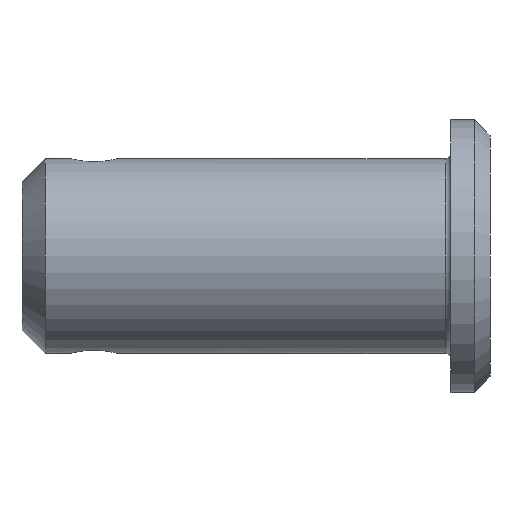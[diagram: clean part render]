
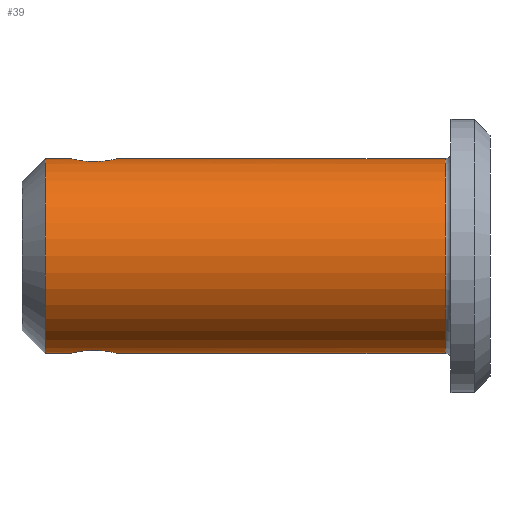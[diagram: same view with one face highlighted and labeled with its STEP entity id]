
A CAD part, front view. The second image highlights one B-rep face of the part: STEP entity #39.
In plain terms, the highlighted cylindrical face has radius 5 mm (diameter 10 mm), a partial arc.
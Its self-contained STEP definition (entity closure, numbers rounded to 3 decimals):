
#1 = ORIENTED_EDGE ( 'NONE', *, *, #133, .T. ) ;
#5 = ORIENTED_EDGE ( 'NONE', *, *, #29, .T. ) ;
#13 = ORIENTED_EDGE ( 'NONE', *, *, #101, .T. ) ;
#14 = ORIENTED_EDGE ( 'NONE', *, *, #71, .F. ) ;
#16 = ORIENTED_EDGE ( 'NONE', *, *, #17, .F. ) ;
#17 = EDGE_CURVE ( 'NONE', #70, #72, #195, .T. ) ;
#29 = EDGE_CURVE ( 'NONE', #30, #109, #174, .T. ) ;
#30 = VERTEX_POINT ( 'NONE', #186 ) ;
#39 = ADVANCED_FACE ( 'NONE', ( #193 ), #173, .T. ) ;
#40 = ORIENTED_EDGE ( 'NONE', *, *, #79, .F. ) ;
#61 = EDGE_CURVE ( 'NONE', #103, #30, #533, .T. ) ;
#70 = VERTEX_POINT ( 'NONE', #558 ) ;
#71 = EDGE_CURVE ( 'NONE', #99, #70, #528, .T. ) ;
#72 = VERTEX_POINT ( 'NONE', #513 ) ;
#79 = EDGE_CURVE ( 'NONE', #104, #93, #277, .T. ) ;
#93 = VERTEX_POINT ( 'NONE', #255 ) ;
#98 = EDGE_CURVE ( 'NONE', #104, #103, #251, .T. ) ;
#99 = VERTEX_POINT ( 'NONE', #378 ) ;
#101 = EDGE_CURVE ( 'NONE', #99, #93, #231, .T. ) ;
#103 = VERTEX_POINT ( 'NONE', #240 ) ;
#104 = VERTEX_POINT ( 'NONE', #233 ) ;
#109 = VERTEX_POINT ( 'NONE', #252 ) ;
#133 = EDGE_CURVE ( 'NONE', #109, #72, #312, .T. ) ;
#142 = ORIENTED_EDGE ( 'NONE', *, *, #61, .T. ) ;
#143 = EDGE_LOOP ( 'NONE', ( #40, #147, #142, #5, #1, #16, #14, #13 ) ) ;
#147 = ORIENTED_EDGE ( 'NONE', *, *, #98, .T. ) ;
#173 = CYLINDRICAL_SURFACE ( 'NONE', #185, 5. ) ;
#174 = B_SPLINE_CURVE_WITH_KNOTS ( 'NONE', 3,
 ( #214, #213, #212, #211, #210, #209, #208, #207, #206, #205, #204, #203, #202, #201, #200, #199, #198, #197, #226, #225, #224, #223 ),
 .UNSPECIFIED., .F., .F.,
 ( 4, 2, 2, 2, 2, 2, 2, 2, 2, 2, 4 ),
 ( 0., 0., 0.001, 0.001, 0.002, 0.002, 0.002, 0.003, 0.003, 0.003, 0.004 ),
 .UNSPECIFIED. ) ;
#175 = DIRECTION ( 'NONE',  ( 0., 0., 1. ) ) ;
#176 = DIRECTION ( 'NONE',  ( -1., 0., 0. ) ) ;
#178 = CARTESIAN_POINT ( 'NONE',  ( 0., 0., 0. ) ) ;
#185 = AXIS2_PLACEMENT_3D ( 'NONE', #178, #176, #175 ) ;
#186 = CARTESIAN_POINT ( 'NONE',  ( -17.05, 0., 5. ) ) ;
#187 = DIRECTION ( 'NONE',  ( 0., 0., 1. ) ) ;
#188 = DIRECTION ( 'NONE',  ( -1., 0., 0. ) ) ;
#189 = CARTESIAN_POINT ( 'NONE',  ( -20.8, 0., 0. ) ) ;
#190 = AXIS2_PLACEMENT_3D ( 'NONE', #189, #188, #187 ) ;
#193 = FACE_OUTER_BOUND ( 'NONE', #143, .T. ) ;
#195 = CIRCLE ( 'NONE', #190, 5. ) ;
#197 = CARTESIAN_POINT ( 'NONE',  ( -19.384, -0.628, 4.961 ) ) ;
#198 = CARTESIAN_POINT ( 'NONE',  ( -19.293, -0.763, 4.942 ) ) ;
#199 = CARTESIAN_POINT ( 'NONE',  ( -19.242, -0.826, 4.932 ) ) ;
#200 = CARTESIAN_POINT ( 'NONE',  ( -19.068, -1., 4.9 ) ) ;
#201 = CARTESIAN_POINT ( 'NONE',  ( -18.931, -1.092, 4.88 ) ) ;
#202 = CARTESIAN_POINT ( 'NONE',  ( -18.703, -1.186, 4.857 ) ) ;
#203 = CARTESIAN_POINT ( 'NONE',  ( -18.625, -1.21, 4.851 ) ) ;
#204 = CARTESIAN_POINT ( 'NONE',  ( -18.465, -1.242, 4.843 ) ) ;
#205 = CARTESIAN_POINT ( 'NONE',  ( -18.381, -1.25, 4.841 ) ) ;
#206 = CARTESIAN_POINT ( 'NONE',  ( -18.136, -1.25, 4.841 ) ) ;
#207 = CARTESIAN_POINT ( 'NONE',  ( -17.971, -1.217, 4.85 ) ) ;
#208 = CARTESIAN_POINT ( 'NONE',  ( -17.67, -1.092, 4.88 ) ) ;
#209 = CARTESIAN_POINT ( 'NONE',  ( -17.531, -0.999, 4.901 ) ) ;
#210 = CARTESIAN_POINT ( 'NONE',  ( -17.302, -0.769, 4.942 ) ) ;
#211 = CARTESIAN_POINT ( 'NONE',  ( -17.209, -0.631, 4.962 ) ) ;
#212 = CARTESIAN_POINT ( 'NONE',  ( -17.083, -0.329, 4.992 ) ) ;
#213 = CARTESIAN_POINT ( 'NONE',  ( -17.05, -0.166, 5. ) ) ;
#214 = CARTESIAN_POINT ( 'NONE',  ( -17.05, 0., 5. ) ) ;
#223 = CARTESIAN_POINT ( 'NONE',  ( -19.55, 0., 5. ) ) ;
#224 = CARTESIAN_POINT ( 'NONE',  ( -19.55, -0.164, 5. ) ) ;
#225 = CARTESIAN_POINT ( 'NONE',  ( -19.517, -0.328, 4.992 ) ) ;
#226 = CARTESIAN_POINT ( 'NONE',  ( -19.423, -0.555, 4.97 ) ) ;
#231 = B_SPLINE_CURVE_WITH_KNOTS ( 'NONE', 3,
 ( #238, #237, #236, #235, #234, #371, #370, #369, #368, #367, #366, #365, #364, #363, #362, #361, #360, #359, #358, #357 ),
 .UNSPECIFIED., .F., .F.,
 ( 4, 2, 2, 2, 2, 2, 2, 2, 2, 4 ),
 ( 0.004, 0.004, 0.005, 0.005, 0.006, 0.006, 0.006, 0.007, 0.007, 0.008 ),
 .UNSPECIFIED. ) ;
#233 = CARTESIAN_POINT ( 'NONE',  ( -0.3, 0., -5. ) ) ;
#234 = CARTESIAN_POINT ( 'NONE',  ( -19.299, -0.768, -4.942 ) ) ;
#235 = CARTESIAN_POINT ( 'NONE',  ( -19.392, -0.63, -4.962 ) ) ;
#236 = CARTESIAN_POINT ( 'NONE',  ( -19.517, -0.329, -4.991 ) ) ;
#237 = CARTESIAN_POINT ( 'NONE',  ( -19.55, -0.164, -5. ) ) ;
#238 = CARTESIAN_POINT ( 'NONE',  ( -19.55, 0., -5. ) ) ;
#240 = CARTESIAN_POINT ( 'NONE',  ( -0.3, 0., 5. ) ) ;
#246 = DIRECTION ( 'NONE',  ( 0., 0., -1. ) ) ;
#247 = DIRECTION ( 'NONE',  ( -1., 0., 0. ) ) ;
#248 = CARTESIAN_POINT ( 'NONE',  ( -0.3, 0., 0. ) ) ;
#251 = CIRCLE ( 'NONE', #391, 5. ) ;
#252 = CARTESIAN_POINT ( 'NONE',  ( -19.55, 0., 5. ) ) ;
#255 = CARTESIAN_POINT ( 'NONE',  ( -17.05, 0., -5. ) ) ;
#276 = CARTESIAN_POINT ( 'NONE',  ( 0., 0., -5. ) ) ;
#277 = LINE ( 'NONE', #276, #375 ) ;
#312 = LINE ( 'NONE', #429, #428 ) ;
#357 = CARTESIAN_POINT ( 'NONE',  ( -17.05, 0., -5. ) ) ;
#358 = CARTESIAN_POINT ( 'NONE',  ( -17.05, -0.166, -5. ) ) ;
#359 = CARTESIAN_POINT ( 'NONE',  ( -17.083, -0.33, -4.991 ) ) ;
#360 = CARTESIAN_POINT ( 'NONE',  ( -17.209, -0.631, -4.962 ) ) ;
#361 = CARTESIAN_POINT ( 'NONE',  ( -17.302, -0.77, -4.942 ) ) ;
#362 = CARTESIAN_POINT ( 'NONE',  ( -17.531, -0.999, -4.901 ) ) ;
#363 = CARTESIAN_POINT ( 'NONE',  ( -17.67, -1.092, -4.88 ) ) ;
#364 = CARTESIAN_POINT ( 'NONE',  ( -17.896, -1.186, -4.857 ) ) ;
#365 = CARTESIAN_POINT ( 'NONE',  ( -17.976, -1.21, -4.851 ) ) ;
#366 = CARTESIAN_POINT ( 'NONE',  ( -18.137, -1.242, -4.843 ) ) ;
#367 = CARTESIAN_POINT ( 'NONE',  ( -18.218, -1.25, -4.841 ) ) ;
#368 = CARTESIAN_POINT ( 'NONE',  ( -18.465, -1.25, -4.841 ) ) ;
#369 = CARTESIAN_POINT ( 'NONE',  ( -18.628, -1.217, -4.85 ) ) ;
#370 = CARTESIAN_POINT ( 'NONE',  ( -18.932, -1.091, -4.88 ) ) ;
#371 = CARTESIAN_POINT ( 'NONE',  ( -19.069, -0.999, -4.901 ) ) ;
#374 = DIRECTION ( 'NONE',  ( -1., 0., 0. ) ) ;
#375 = VECTOR ( 'NONE', #374, 1000. ) ;
#378 = CARTESIAN_POINT ( 'NONE',  ( -19.55, 0., -5. ) ) ;
#391 = AXIS2_PLACEMENT_3D ( 'NONE', #248, #247, #246 ) ;
#427 = DIRECTION ( 'NONE',  ( -1., 0., 0. ) ) ;
#428 = VECTOR ( 'NONE', #427, 1000. ) ;
#429 = CARTESIAN_POINT ( 'NONE',  ( 0., 0., 5. ) ) ;
#513 = CARTESIAN_POINT ( 'NONE',  ( -20.8, 0., 5. ) ) ;
#525 = DIRECTION ( 'NONE',  ( -1., 0., 0. ) ) ;
#526 = VECTOR ( 'NONE', #525, 1000. ) ;
#527 = CARTESIAN_POINT ( 'NONE',  ( 0., 0., -5. ) ) ;
#528 = LINE ( 'NONE', #527, #526 ) ;
#532 = CARTESIAN_POINT ( 'NONE',  ( 0., 0., 5. ) ) ;
#533 = LINE ( 'NONE', #532, #552 ) ;
#551 = DIRECTION ( 'NONE',  ( -1., 0., 0. ) ) ;
#552 = VECTOR ( 'NONE', #551, 1000. ) ;
#558 = CARTESIAN_POINT ( 'NONE',  ( -20.8, 0., -5. ) ) ;
